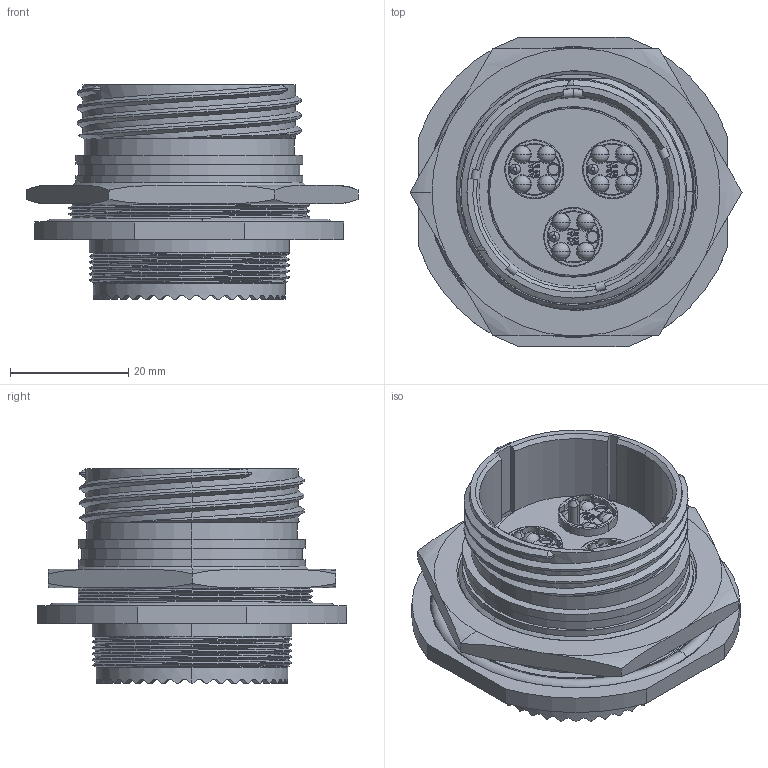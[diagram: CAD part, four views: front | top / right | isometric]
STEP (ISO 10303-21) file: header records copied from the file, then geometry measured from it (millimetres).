
FILE_DESCRIPTION (( 'STEP AP214' ), '1' );
FILE_NAME ('Q38EB-RJX-23XX-X.STEP', '2025-08-22T19:15:08', ( '' ), ( '' ), 'SwSTEP 2.0', 'SolidWorks 2024', '' );
FILE_SCHEMA (( 'AUTOMOTIVE_DESIGN' ));
Length unit declared in the file: millimetre
Products named in the file (1): Q38EB-RJX-23XX-X
Bounding box: 56.25 x 52.4 x 36.32 mm (x, y, z)
Volume: 31538.1 mm3; surface area: 18105.3 mm2
Topology: 3 solids, 3 shells, 948 faces, 2479 edges, 1617 vertices
Faces by surface type: plane 480, cylinder 204, bspline 126, cone 61, torus 53, sphere 24
Entity records: 43953 total; most frequent: CARTESIAN_POINT 21863, ORIENTED_EDGE 4958, DIRECTION 4187, EDGE_CURVE 2479, VERTEX_POINT 1617, AXIS2_PLACEMENT_3D 1509, VECTOR 1169, LINE 1169
